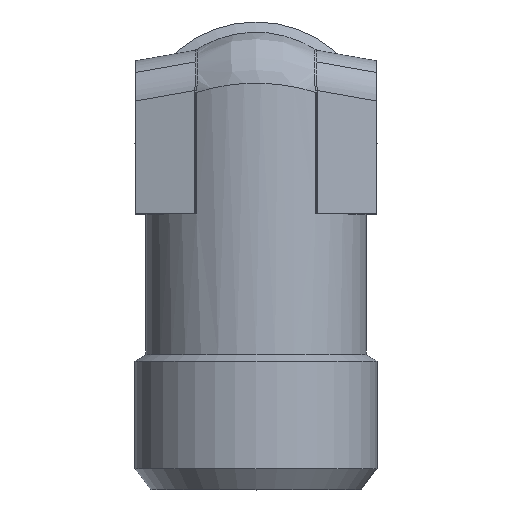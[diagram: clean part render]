
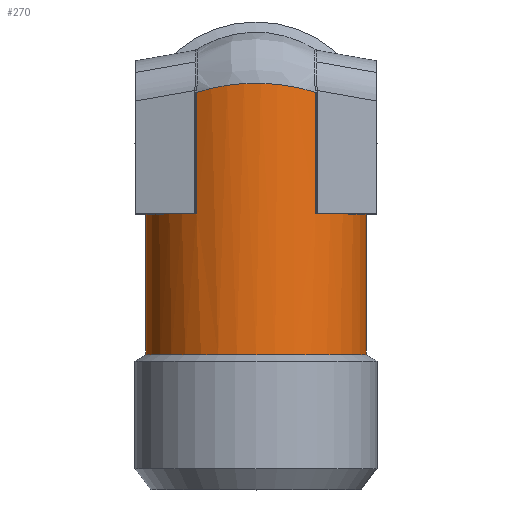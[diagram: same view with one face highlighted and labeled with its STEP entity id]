
A CAD part, top view. The second image highlights one B-rep face of the part: STEP entity #270.
In plain terms, the highlighted cylindrical face has radius 5.4 mm (diameter 10.8 mm), a partial arc.
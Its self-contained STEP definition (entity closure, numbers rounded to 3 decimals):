
#195=CARTESIAN_POINT('',(0.0,0.0,0.0));
#196=DIRECTION('',(0.0,1.0,0.0));
#197=DIRECTION('',(-1.0,0.0,0.0));
#198=AXIS2_PLACEMENT_3D('',#195,#196,#197);
#199=CYLINDRICAL_SURFACE('',#198,5.4);
#200=CARTESIAN_POINT('',(-5.4,-10.4,0.));
#201=VERTEX_POINT('',#200);
#202=CARTESIAN_POINT('',(-5.4,-3.5,0.));
#203=VERTEX_POINT('',#202);
#204=CARTESIAN_POINT('',(-5.4,-10.4,0.));
#205=DIRECTION('',(0.0,1.0,0.0));
#206=VECTOR('',#205,6.9);
#207=LINE('',#204,#206);
#208=EDGE_CURVE('',#201,#203,#207,.T.);
#209=ORIENTED_EDGE('',*,*,#208,.F.);
#210=CARTESIAN_POINT('',(5.4,-10.4,0.));
#211=VERTEX_POINT('',#210);
#212=CARTESIAN_POINT('',(0.0,-10.4,0.));
#213=DIRECTION('',(0.0,1.0,0.0));
#214=DIRECTION('',(1.0,0.0,0.0));
#215=AXIS2_PLACEMENT_3D('',#212,#213,#214);
#216=CIRCLE('',#215,5.4);
#217=EDGE_CURVE('',#201,#211,#216,.T.);
#218=ORIENTED_EDGE('',*,*,#217,.T.);
#219=CARTESIAN_POINT('',(5.4,-3.5,0.));
#220=VERTEX_POINT('',#219);
#221=CARTESIAN_POINT('',(5.4,-3.5,0.));
#222=DIRECTION('',(0.0,-1.0,0.0));
#223=VECTOR('',#222,6.9);
#224=LINE('',#221,#223);
#225=EDGE_CURVE('',#220,#211,#224,.T.);
#226=ORIENTED_EDGE('',*,*,#225,.F.);
#227=CARTESIAN_POINT('',(2.914,-3.5,4.546));
#228=VERTEX_POINT('',#227);
#229=CARTESIAN_POINT('',(0.0,-3.5,0.0));
#230=DIRECTION('',(0.0,-1.0,0.0));
#231=DIRECTION('',(-1.0,0.0,0.0));
#232=AXIS2_PLACEMENT_3D('',#229,#230,#231);
#233=CIRCLE('',#232,5.4);
#234=EDGE_CURVE('',#220,#228,#233,.T.);
#235=ORIENTED_EDGE('',*,*,#234,.T.);
#236=CARTESIAN_POINT('',(2.914,2.441,4.546));
#237=VERTEX_POINT('',#236);
#238=CARTESIAN_POINT('',(2.914,2.441,4.546));
#239=DIRECTION('',(0.0,-1.0,0.0));
#240=VECTOR('',#239,5.941);
#241=LINE('',#238,#240);
#242=EDGE_CURVE('',#237,#228,#241,.T.);
#243=ORIENTED_EDGE('',*,*,#242,.F.);
#244=CARTESIAN_POINT('',(-2.914,2.441,4.546));
#245=VERTEX_POINT('',#244);
#246=CARTESIAN_POINT('',(0.0,0.0,0.0));
#247=DIRECTION('',(0.0,0.881,-0.473));
#248=DIRECTION('',(0.0,0.473,0.881));
#249=AXIS2_PLACEMENT_3D('',#246,#247,#248);
#250=ELLIPSE('',#249,6.129,5.4);
#251=EDGE_CURVE('',#245,#237,#250,.T.);
#252=ORIENTED_EDGE('',*,*,#251,.F.);
#253=CARTESIAN_POINT('',(-2.914,-3.5,4.546));
#254=VERTEX_POINT('',#253);
#255=CARTESIAN_POINT('',(-2.914,-3.5,4.546));
#256=DIRECTION('',(0.0,1.0,0.0));
#257=VECTOR('',#256,5.941);
#258=LINE('',#255,#257);
#259=EDGE_CURVE('',#254,#245,#258,.T.);
#260=ORIENTED_EDGE('',*,*,#259,.F.);
#261=CARTESIAN_POINT('',(0.0,-3.5,0.0));
#262=DIRECTION('',(0.0,-1.0,0.0));
#263=DIRECTION('',(-1.0,0.0,0.0));
#264=AXIS2_PLACEMENT_3D('',#261,#262,#263);
#265=CIRCLE('',#264,5.4);
#266=EDGE_CURVE('',#254,#203,#265,.T.);
#267=ORIENTED_EDGE('',*,*,#266,.T.);
#268=EDGE_LOOP('',(#209,#218,#226,#235,#243,#252,#260,#267));
#269=FACE_OUTER_BOUND('',#268,.T.);
#270=ADVANCED_FACE('',(#269),#199,.T.);
